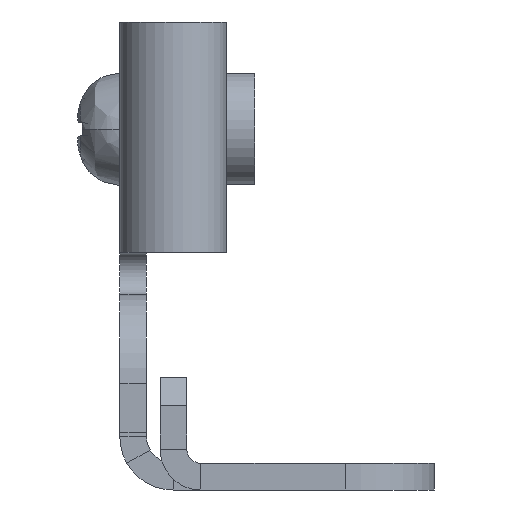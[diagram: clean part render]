
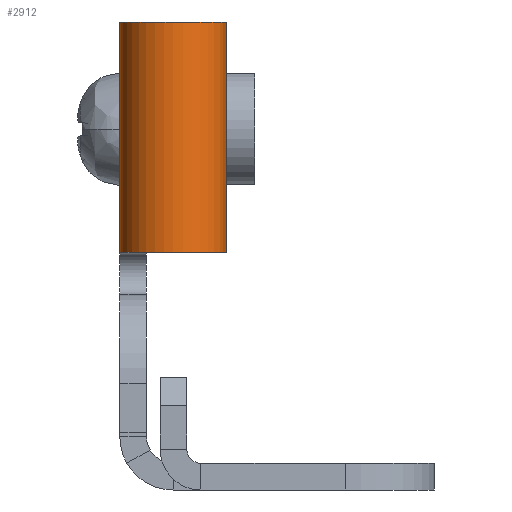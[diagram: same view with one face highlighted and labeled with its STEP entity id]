
A CAD part, front view. The second image highlights one B-rep face of the part: STEP entity #2912.
In plain terms, the highlighted cylindrical face has radius 3.8 mm (diameter 7.6 mm), a partial arc.
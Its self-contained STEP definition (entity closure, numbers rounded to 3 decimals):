
#916=CARTESIAN_POINT('',(-1.069,-41.625,16.9));
#917=DIRECTION('',(0.,0.,1.));
#918=DIRECTION('',(-1.,0.,0.));
#919=AXIS2_PLACEMENT_3D('',#916,#917,#918);
#930=DIRECTION('',(0.,0.,-1.));
#931=VECTOR('',#930,16.366);
#932=CARTESIAN_POINT('',(-4.869,-41.625,33.266));
#933=LINE('',#932,#931);
#934=CARTESIAN_POINT('',(-1.069,-41.625,33.266));
#935=DIRECTION('',(0.,0.,1.));
#936=DIRECTION('',(-1.,0.,0.));
#937=AXIS2_PLACEMENT_3D('',#934,#935,#936);
#1164=DIRECTION('',(0.,0.,-1.));
#1165=VECTOR('',#1164,16.366);
#1166=CARTESIAN_POINT('',(2.731,-41.625,33.266));
#1167=LINE('',#1166,#1165);
#1458=CARTESIAN_POINT('',(-4.869,-41.625,16.9));
#1460=VERTEX_POINT('',#1458);
#1461=CARTESIAN_POINT('',(-4.869,-41.625,33.266));
#1462=VERTEX_POINT('',#1461);
#1463=CARTESIAN_POINT('',(2.731,-41.625,33.266));
#1464=VERTEX_POINT('',#1463);
#1465=CARTESIAN_POINT('',(2.731,-41.625,16.9));
#1466=VERTEX_POINT('',#1465);
#2899=CARTESIAN_POINT('',(-1.069,-41.625,33.266));
#2900=DIRECTION('',(0.,0.,-1.));
#2901=DIRECTION('',(0.,-1.,0.));
#2902=AXIS2_PLACEMENT_3D('',#2899,#2900,#2901);
#2903=CYLINDRICAL_SURFACE('',#2902,3.8);
#2905=ORIENTED_EDGE('',*,*,#2904,.T.);
#2907=ORIENTED_EDGE('',*,*,#2906,.T.);
#2908=ORIENTED_EDGE('',*,*,#2889,.F.);
#2909=ORIENTED_EDGE('',*,*,#2711,.F.);
#2910=EDGE_LOOP('',(#2905,#2907,#2908,#2909));
#2911=FACE_OUTER_BOUND('',#2910,.F.);
#920=CIRCLE('',#919,3.8);
#938=CIRCLE('',#937,3.8);
#2711=EDGE_CURVE('',#1462,#1460,#933,.T.);
#2889=EDGE_CURVE('',#1460,#1466,#920,.T.);
#2904=EDGE_CURVE('',#1462,#1464,#938,.T.);
#2906=EDGE_CURVE('',#1464,#1466,#1167,.T.);
#2912=ADVANCED_FACE('',(#2911),#2903,.T.);
